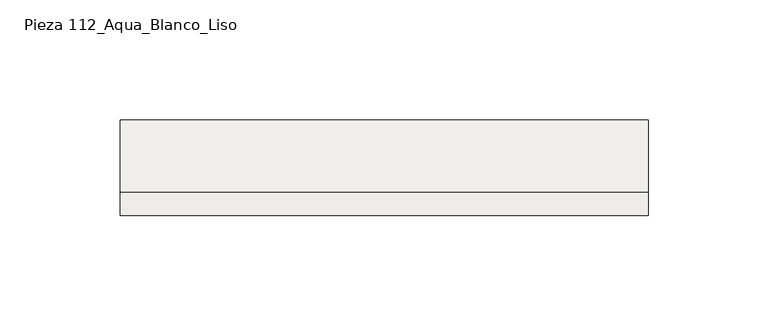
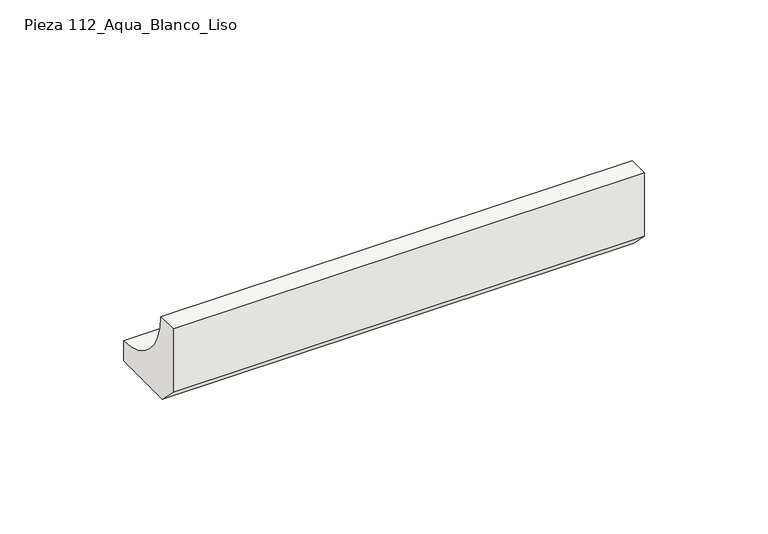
"""IFC4 building model written with IfcOpenShell, lengths in millimetres: slab geometry, ROSA GRES_112 : Pieza 112_Aqua_Blanco_Liso."""

import ifcopenshell
import ifcopenshell.guid

model = None  # the IFC model being written
_history = None  # IfcOwnerHistory: only IFC2X3 demands one
_inside = {}  # id of a spatial element -> (the spatial element, [elements in it])
_under = {}  # id of a project, library or spatial element -> (it, [spatial elements below it])
_declared = {}  # id of a project -> (the project, [libraries it declares])
_typed = {}  # id of a type object -> (the type object, [elements of that type])
_made_of = {}  # id of a material, layer set ... -> (it, [elements and type objects made of it])


def new_model(schema):
    """Start an empty IFC model of exactly this schema.

    Asked for "IFC4X3", IfcOpenShell would pick the latest addendum, in which some entities
    have other attributes; the version numbers below select the first issue.
    IFC2X3 requires an IfcOwnerHistory on every rooted entity: one is made here for all.
    """
    global model, _history
    if schema == "IFC4X3":
        model = ifcopenshell.file(schema_version=(4, 3, 0, 0))
    else:
        model = ifcopenshell.file(schema=schema)
    _inside.clear()
    _under.clear()
    _declared.clear()
    _typed.clear()
    _made_of.clear()
    _history = None
    if model.schema == "IFC2X3":
        org = make("IfcOrganization", Name="unknown")
        user = make(
            "IfcPersonAndOrganization",
            ThePerson=make("IfcPerson", FamilyName="unknown"),
            TheOrganization=org,
        )
        app = make(
            "IfcApplication",
            ApplicationDeveloper=org,
            Version="unknown",
            ApplicationFullName="unknown",
            ApplicationIdentifier="unknown",
        )
        _history = make(
            "IfcOwnerHistory",
            OwningUser=user,
            OwningApplication=app,
            ChangeAction="ADDED",
            CreationDate=0,
        )
    return model


def make(cls, **values):
    """One entity of the class cls with the attributes given. An attribute that is None is left unset."""
    return model.create_entity(
        cls, **{name: value for name, value in values.items() if value is not None}
    )


def rooted(cls, **values):
    """An entity with a GlobalId (a new one), such as an element, a storey or a relation."""
    return make(cls, GlobalId=ifcopenshell.guid.new(), OwnerHistory=_history, **values)


def si_unit(unit_type, name, prefix=None):
    """IfcSIUnit, for example si_unit("LENGTHUNIT", "METRE", prefix="MILLI")."""
    return make("IfcSIUnit", UnitType=unit_type, Prefix=prefix, Name=name)


def assignment(units):
    """IfcUnitAssignment: the units of a project."""
    return None if units is None else make("IfcUnitAssignment", Units=units)


def point(xyz):
    """IfcCartesianPoint."""
    return None if xyz is None else make("IfcCartesianPoint", Coordinates=xyz)


def direction(xyz):
    """IfcDirection."""
    return None if xyz is None else make("IfcDirection", DirectionRatios=xyz)


def frame(location, z_axis=None, x_axis=None):
    """IfcAxis2Placement3D, a coordinate frame: its origin and axes. An axis left out is left unset."""
    return make(
        "IfcAxis2Placement3D",
        Location=point(location),
        Axis=direction(z_axis),
        RefDirection=direction(x_axis),
    )


def frame_2d(location, x_axis=None):
    """IfcAxis2Placement2D, a coordinate frame in the plane: its origin and x axis."""
    return make(
        "IfcAxis2Placement2D", Location=point(location), RefDirection=direction(x_axis)
    )


def origin():
    """The frame at (0, 0, 0) with its axes left unset."""
    return frame((0.0, 0.0, 0.0))


def place(relative_to, where):
    """IfcLocalPlacement: puts the frame where relative to a parent placement (None: the world)."""
    return make(
        "IfcLocalPlacement", PlacementRelTo=relative_to, RelativePlacement=where
    )


def context(
    kind, dimensions, precision=None, world=None, true_north=None, identifier=None
):
    """IfcGeometricRepresentationContext, for example the 3D "Model" context."""
    return make(
        "IfcGeometricRepresentationContext",
        ContextIdentifier=identifier,
        ContextType=kind,
        CoordinateSpaceDimension=dimensions,
        Precision=precision,
        WorldCoordinateSystem=world,
        TrueNorth=true_north,
    )


def project(units=None, contexts=None):
    """IfcProject with its units and contexts."""
    return rooted(
        "IfcProject",
        Name="project",
        RepresentationContexts=contexts,
        UnitsInContext=assignment(units),
    )


def spatial(cls, under=None, at=None, **own):
    """A site, building, storey or space (cls), placed at a placement, below another one or the project."""
    s = rooted(cls, ObjectPlacement=at, **own)
    if under is not None:
        _under.setdefault(under.id(), (under, []))[1].append(s)
    return s


def polyline(points):
    """IfcPolyline through the points."""
    return make("IfcPolyline", Points=[point(p) for p in points])


def circle_curve(where, radius):
    """IfcCircle in the frame where."""
    return make("IfcCircle", Position=where, Radius=radius)


def trimmed(basis, trim1, trim2, sense, master):
    """IfcTrimmedCurve: the piece of a basis curve between two trims."""
    return make(
        "IfcTrimmedCurve",
        BasisCurve=basis,
        Trim1=trim1,
        Trim2=trim2,
        SenseAgreement=sense,
        MasterRepresentation=master,
    )


def segment(curve, same_sense, transition):
    """IfcCompositeCurveSegment."""
    return make(
        "IfcCompositeCurveSegment",
        Transition=transition,
        SameSense=same_sense,
        ParentCurve=curve,
    )


def composite_curve(segments, self_intersect=None):
    """IfcCompositeCurve: segments joined end to end."""
    return make("IfcCompositeCurve", Segments=segments, SelfIntersect=self_intersect)


def outline(outer, holes=None, kind="AREA"):
    """IfcArbitraryClosedProfileDef: a profile drawn as a closed curve; with holes, ...WithVoids."""
    if holes is None:
        return make("IfcArbitraryClosedProfileDef", ProfileType=kind, OuterCurve=outer)
    return make(
        "IfcArbitraryProfileDefWithVoids",
        ProfileType=kind,
        OuterCurve=outer,
        InnerCurves=holes,
    )


def extrude(swept, where, along, depth):
    """IfcExtrudedAreaSolid: the profile swept, set in the frame where, extruded along a direction by depth."""
    return make(
        "IfcExtrudedAreaSolid",
        SweptArea=swept,
        Position=where,
        ExtrudedDirection=direction(along),
        Depth=depth,
    )


def shape(context_of_items, identifier, shape_type, items):
    """IfcShapeRepresentation: the items that make up one representation, for example the "Body"."""
    return make(
        "IfcShapeRepresentation",
        ContextOfItems=context_of_items,
        RepresentationIdentifier=identifier,
        RepresentationType=shape_type,
        Items=items,
    )


def source(mapping_origin, context_of_items, identifier, shape_type, items):
    """IfcRepresentationMap: a shape defined once, which mapped items show again and again."""
    return make(
        "IfcRepresentationMap",
        MappingOrigin=mapping_origin,
        MappedRepresentation=shape(context_of_items, identifier, shape_type, items),
    )


def transform(
    local_origin,
    x_axis=None,
    y_axis=None,
    z_axis=None,
    scale=None,
    scale2=None,
    scale3=None,
    uniform=True,
):
    """IfcCartesianTransformationOperator3D, or its non-uniform kind. x_axis, y_axis, z_axis: its Axis1, 2, 3."""
    if uniform:
        return make(
            "IfcCartesianTransformationOperator3D",
            Axis1=direction(x_axis),
            Axis2=direction(y_axis),
            LocalOrigin=point(local_origin),
            Scale=scale,
            Axis3=direction(z_axis),
        )
    return make(
        "IfcCartesianTransformationOperator3DnonUniform",
        Axis1=direction(x_axis),
        Axis2=direction(y_axis),
        LocalOrigin=point(local_origin),
        Scale=scale,
        Axis3=direction(z_axis),
        Scale2=scale2,
        Scale3=scale3,
    )


def mapped(mapping_source, mapping_target):
    """IfcMappedItem: shows the shape of a source again, moved by a transform."""
    return make(
        "IfcMappedItem", MappingSource=mapping_source, MappingTarget=mapping_target
    )


def made_of(thing, what):
    """Note that an element or type object is made of a material, layer set ...; save() writes the relation."""
    if what is not None:
        _made_of.setdefault(what.id(), (what, []))[1].append(thing)
    return thing


def element(
    cls,
    number,
    at=None,
    inside=None,
    cuts=None,
    type_object=None,
    material=None,
    context=None,
    identifier="Body",
    shape_type=None,
    held_by="IfcProductDefinitionShape",
    body=None,
    shapes=None,
    **own,
):
    """One element of the class cls, such as IfcWall. Its Tag is "e" and its number.

    at: its placement. inside: the storey or other place that contains it. cuts: it is an
    opening in that element (IfcRelVoidsElement). A single representation is given by context,
    identifier, shape_type and body (its items); several are given by shapes. held_by: the class
    of the entity that holds the representations. save() writes the other relations.
    """
    e = rooted(cls, Tag="e%d" % number, ObjectPlacement=at, **own)
    if body is not None:
        shapes = [shape(context, identifier, shape_type, body)]
    if shapes is not None:
        e.Representation = make(held_by, Representations=shapes)
    if inside is not None:
        _inside.setdefault(inside.id(), (inside, []))[1].append(e)
    if cuts is not None:
        rooted(
            "IfcRelVoidsElement", RelatingBuildingElement=cuts, RelatedOpeningElement=e
        )
    if type_object is not None:
        _typed.setdefault(type_object.id(), (type_object, []))[1].append(e)
    return made_of(e, material)


def aggregate(whole, parts):
    """IfcRelAggregates: a whole, such as a stair, and the parts it consists of."""
    return rooted("IfcRelAggregates", RelatingObject=whole, RelatedObjects=parts)


def save(model, path):
    """Write the relations noted so far, then the file.

    IfcRelAggregates (storeys below a building ...), IfcRelContainedInSpatialStructure (elements
    in a storey), IfcRelDefinesByType, IfcRelAssociatesMaterial and IfcRelDeclares: one each for
    every whole, place, type object, material and project.
    """
    for whole, parts in _under.values():
        aggregate(whole, parts)
    for where, things in _inside.values():
        rooted(
            "IfcRelContainedInSpatialStructure",
            RelatedElements=things,
            RelatingStructure=where,
        )
    for kind, things in _typed.values():
        rooted("IfcRelDefinesByType", RelatedObjects=things, RelatingType=kind)
    for what, things in _made_of.values():
        rooted("IfcRelAssociatesMaterial", RelatedObjects=things, RelatingMaterial=what)
    for by, libraries in _declared.values():
        rooted("IfcRelDeclares", RelatingContext=by, RelatedDefinitions=libraries)
    model.write(path)


def pieza_112_aqua_blanco_liso_926745f3(model_context):
    return source(origin(), model_context, "Body", "SweptSolid", [
        extrude(outline(composite_curve([segment(polyline([(-9.9734114, 8.7114978), (-9.9734114, 40.0), (0.0, 40.0)]), True, "CONTINUOUS"), segment(trimmed(circle_curve(frame_2d((30.0221432, 39.9955547)), 30.0221435), [point((0.0, 40.0))], [point((30.0265886, 9.9734114))], True, "CARTESIAN"), True, "CONTINUOUS"), segment(polyline([(30.0265886, 9.9734114), (30.0265886, 0.0), (-1.2619137, 0.0), (-9.9734114, 8.7114978)]), True, "CONTINUOUS")], self_intersect=False)), frame((0.0, 0.0, 0.0), z_axis=(1.0, 0.0, 0.0), x_axis=(0.0, 1.0, 0.0)), (0.0, 0.0, 1.0), 220.0),
    ])


if __name__ == "__main__":
    model = new_model("IFC4")
    model_context = context("Model", 3, world=origin())
    ifc_project = project(units=[si_unit("LENGTHUNIT", "METRE", prefix="MILLI")], contexts=[model_context])
    site = spatial("IfcSite", under=ifc_project)
    building = spatial("IfcBuilding", under=site)
    placement = place(None, origin())
    pieza_112_aqua_blanco_liso_shape = pieza_112_aqua_blanco_liso_926745f3(model_context)
    element("IfcSlab", 1, ObjectType="ROSA GRES_112 : Pieza 112_Aqua_Blanco_Liso", at=placement, inside=building, context=model_context, shape_type="MappedRepresentation", body=[
        mapped(pieza_112_aqua_blanco_liso_shape, transform((0.0, 0.0, 0.0), x_axis=(1.0, 0.0, 0.0), y_axis=(0.0, 1.0, 0.0), z_axis=(0.0, 0.0, 1.0))),
    ])
    save(model, "model.ifc")
